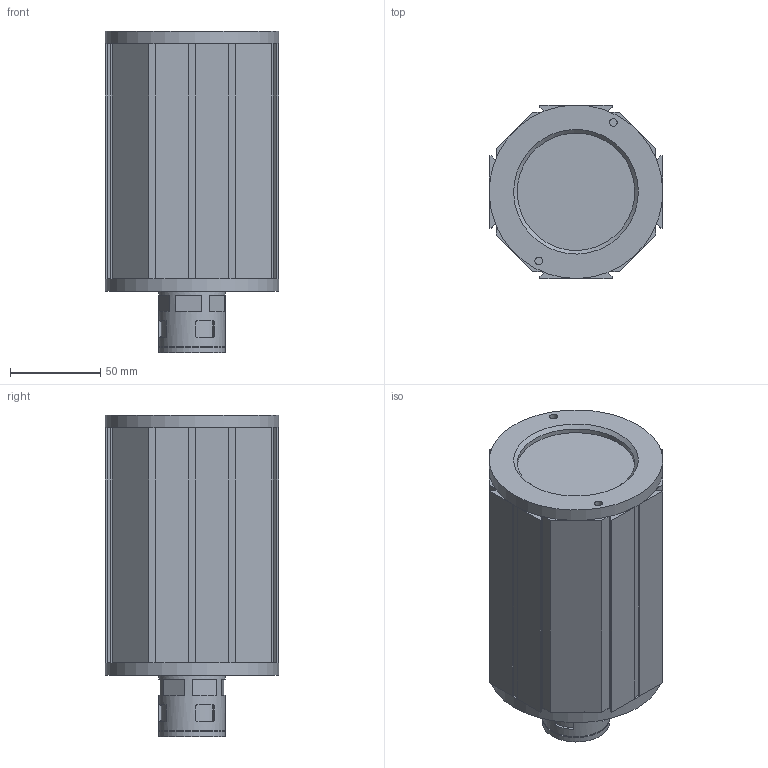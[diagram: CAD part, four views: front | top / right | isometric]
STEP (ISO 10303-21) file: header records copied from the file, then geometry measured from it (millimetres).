
FILE_DESCRIPTION(('STEP AP214'),'1');
FILE_NAME('ORC-S45_.stp','2025-07-16T04:06:11',(' '),(' '),'Spatial InterOp 3D',' ',' ');
FILE_SCHEMA(('AUTOMOTIVE_DESIGN { 1 0 10303 214 1 1 1 1 }'));
Length unit declared in the file: metre
Products named in the file (9): Frontdeckel_3_22_ Layout; Deckel_Orca_DIN472_3_22_ Sprengring; St_tzring; Sprengring78; 3 Zoll Scheibe; ORC-S45_; Orca_Profil_S = 130mm; Deckel_Orca_DIN472_R_ckwand M32; Rqg_m_32-28_5
Assembly tree (8 placements, depth 3):
  ORC-S45_
    Frontdeckel_3_22_ Layout
      Deckel_Orca_DIN472_3_22_ Sprengring
      St_tzring
      Sprengring78
      3 Zoll Scheibe
    Orca_Profil_S = 130mm
    Deckel_Orca_DIN472_R_ckwand M32
    Rqg_m_32-28_5
Bounding box: 96 x 96 x 178 mm (x, y, z)
Volume: 345583.5 mm3; surface area: 153292.8 mm2
Topology: 7 solids, 7 shells, 199 faces, 451 edges, 301 vertices
Faces by surface type: plane 131, cylinder 59, cone 8, torus 1
Full cylindrical faces by diameter (mm): 2 x4, 4.2 x4, 23.5 x1, 28.5 x1, 30.95 x1, 31 x1, 32 x2, 37 x2, 65 x1, 68 x1, 69 x1, 74.2 x1, 76 x1, 77 x1, 78 x4, 79.8 x2, 85 x1, 85.5 x2, 85.8 x2, 87 x4, 96 x2
Entity records: 9286 total; most frequent: CARTESIAN_POINT 1235, DIRECTION 888, ORIENTED_EDGE 774, STYLED_ITEM 593, PRESENTATION_STYLE_ASSIGNMENT 593, COLOUR_RGB 593, EDGE_CURVE 387, CURVE_STYLE 387
